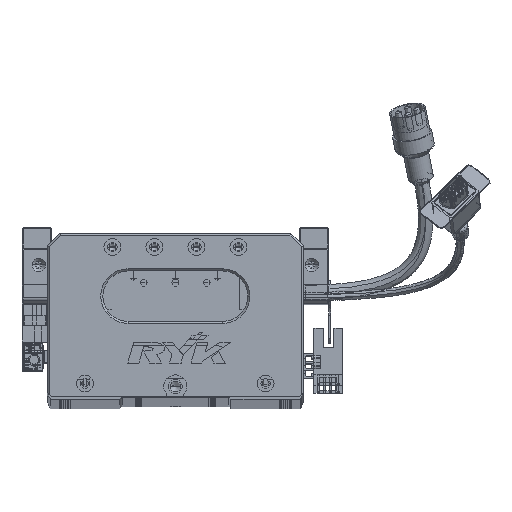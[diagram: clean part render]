
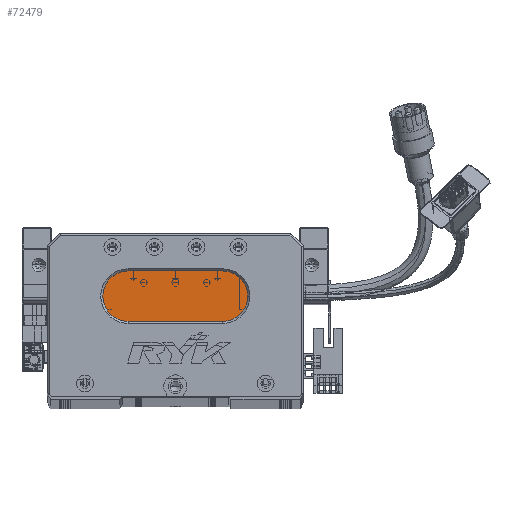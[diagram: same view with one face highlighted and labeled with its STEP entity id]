
A CAD part, top view. The second image highlights one B-rep face of the part: STEP entity #72479.
In plain terms, the highlighted planar face has unit normal (0, 0, 1) as drawn and (0, 0, -1) by its records, which use the part's own axes.
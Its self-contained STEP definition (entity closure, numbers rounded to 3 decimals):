
#574 = VECTOR ( 'NONE', #42008, 1000. ) ;
#1153 = DIRECTION ( 'NONE',  ( 0., 0., -1. ) ) ;
#7664 = CARTESIAN_POINT ( 'NONE',  ( 26.5, 48., 13. ) ) ;
#7703 = DIRECTION ( 'NONE',  ( 0., 0., -1. ) ) ;
#13555 = CARTESIAN_POINT ( 'NONE',  ( 38.5, 48., 13. ) ) ;
#16707 = EDGE_CURVE ( 'NONE', #72310, #22882, #92076, .T. ) ;
#17210 = DIRECTION ( 'NONE',  ( -1., 0., 0. ) ) ;
#20156 = CARTESIAN_POINT ( 'NONE',  ( 83.5, 48., 13. ) ) ;
#20456 = CARTESIAN_POINT ( 'NONE',  ( 38.5, 36., 13. ) ) ;
#22882 = VERTEX_POINT ( 'NONE', #20456 ) ;
#26297 = PLANE ( 'NONE',  #55737 ) ;
#30020 = DIRECTION ( 'NONE',  ( -1., 0., 0. ) ) ;
#30841 = DIRECTION ( 'NONE',  ( -1., 0., 0. ) ) ;
#34228 = DIRECTION ( 'NONE',  ( -1., 0., 0. ) ) ;
#39035 = AXIS2_PLACEMENT_3D ( 'NONE', #13555, #97677, #117881 ) ;
#41013 = EDGE_CURVE ( 'NONE', #63955, #65075, #72275, .T. ) ;
#41357 = CARTESIAN_POINT ( 'NONE',  ( 38.5, 60., 13. ) ) ;
#42008 = DIRECTION ( 'NONE',  ( 1., 0., 0. ) ) ;
#44333 = ORIENTED_EDGE ( 'NONE', *, *, #69887, .T. ) ;
#46168 = EDGE_CURVE ( 'NONE', #116819, #72310, #116121, .T. ) ;
#48998 = AXIS2_PLACEMENT_3D ( 'NONE', #105904, #115392, #30841 ) ;
#53655 = EDGE_LOOP ( 'NONE', ( #71666, #92610, #88702, #75100, #44333 ) ) ;
#55737 = AXIS2_PLACEMENT_3D ( 'NONE', #64214, #7703, #17210 ) ;
#59777 = CARTESIAN_POINT ( 'NONE',  ( 83.5, 60., 13. ) ) ;
#63955 = VERTEX_POINT ( 'NONE', #7664 ) ;
#64214 = CARTESIAN_POINT ( 'NONE',  ( 83.5, 48., 13. ) ) ;
#65075 = VERTEX_POINT ( 'NONE', #41357 ) ;
#69512 = CARTESIAN_POINT ( 'NONE',  ( 83.5, 36., 13. ) ) ;
#69887 = EDGE_CURVE ( 'NONE', #65075, #116819, #90607, .T. ) ;
#71666 = ORIENTED_EDGE ( 'NONE', *, *, #46168, .T. ) ;
#72275 = CIRCLE ( 'NONE', #48998, 12. ) ;
#72310 = VERTEX_POINT ( 'NONE', #79888 ) ;
#72479 = ADVANCED_FACE ( 'NONE', ( #117206 ), #26297, .T. ) ;
#75100 = ORIENTED_EDGE ( 'NONE', *, *, #41013, .T. ) ;
#79888 = CARTESIAN_POINT ( 'NONE',  ( 83.5, 36., 13. ) ) ;
#88702 = ORIENTED_EDGE ( 'NONE', *, *, #121736, .T. ) ;
#90607 = LINE ( 'NONE', #59777, #574 ) ;
#92076 = LINE ( 'NONE', #69512, #114230 ) ;
#92610 = ORIENTED_EDGE ( 'NONE', *, *, #16707, .T. ) ;
#97128 = CIRCLE ( 'NONE', #39035, 12. ) ;
#97677 = DIRECTION ( 'NONE',  ( 0., 0., -1. ) ) ;
#100837 = AXIS2_PLACEMENT_3D ( 'NONE', #20156, #1153, #30020 ) ;
#103091 = CARTESIAN_POINT ( 'NONE',  ( 83.5, 60., 13. ) ) ;
#105904 = CARTESIAN_POINT ( 'NONE',  ( 38.5, 48., 13. ) ) ;
#114230 = VECTOR ( 'NONE', #34228, 1000. ) ;
#115392 = DIRECTION ( 'NONE',  ( 0., 0., -1. ) ) ;
#116121 = CIRCLE ( 'NONE', #100837, 12. ) ;
#116819 = VERTEX_POINT ( 'NONE', #103091 ) ;
#117206 = FACE_OUTER_BOUND ( 'NONE', #53655, .T. ) ;
#117881 = DIRECTION ( 'NONE',  ( -1., 0., 0. ) ) ;
#121736 = EDGE_CURVE ( 'NONE', #22882, #63955, #97128, .T. ) ;
